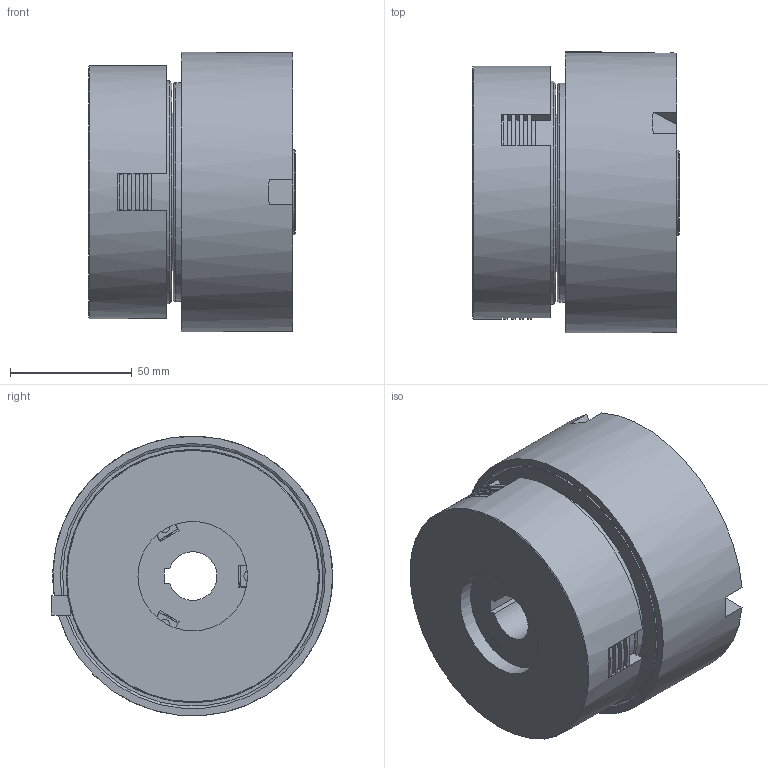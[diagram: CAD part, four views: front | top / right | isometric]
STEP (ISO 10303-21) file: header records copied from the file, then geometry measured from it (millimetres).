
FILE_DESCRIPTION(/* description */ (''),/* implementation_level */ '2;1');
FILE_NAME(/* name */ 'X:\INVENTOR\DISEGNI\03_Friz_Oleod_Pneum_Cil_Stat\03_08 LP\03_08_003_01 LP003\03_08_003_01 LP03@STEP.stp',/* time_stamp */ '2023-02-03T16:12:54+01:00',/* author */ ('alessio'),/* organization */ (''),/* preprocessor_version */ 'ST-DEVELOPER v18.1',/* originating_system */ 'Autodesk Inventor 2021',/* authorisation */ '');
FILE_SCHEMA (('AUTOMOTIVE_DESIGN { 1 0 10303 214 3 1 1 }'));
Length unit declared in the file: millimetre
Products named in the file (1): 03_08_003_01 LP03
Bounding box: 85 x 115.6 x 114.9 mm (x, y, z)
Volume: 601967 mm3; surface area: 248590 mm2
Topology: 24 solids, 29 shells, 569 faces, 1669 edges, 1134 vertices
Faces by surface type: plane 279, cylinder 158, torus 66, cone 33, sphere 20, bspline 13
Full cylindrical faces by diameter (mm): 2.4 x3, 2.5 x18, 3 x15, 3.242 x1, 4 x1, 4.5 x1, 5 x1, 7 x1, 7.5 x1, 8.566 x1, 33 x2, 35 x4, 43.64 x2, 44 x1, 45 x1, 52 x1, 53.36 x2, 55 x3, 56 x4, 62 x3, 65 x1, 66 x1, 66.2 x2, 75 x2, 78 x1, 78.48 x1, 78.8 x2, 80 x1, 90 x2, 92 x1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
Entity records: 24568 total; most frequent: CARTESIAN_POINT 8696, ORIENTED_EDGE 3254, DIRECTION 3134, EDGE_CURVE 1627, AXIS2_PLACEMENT_3D 1224, VERTEX_POINT 1134, EDGE_LOOP 737, LINE 686
